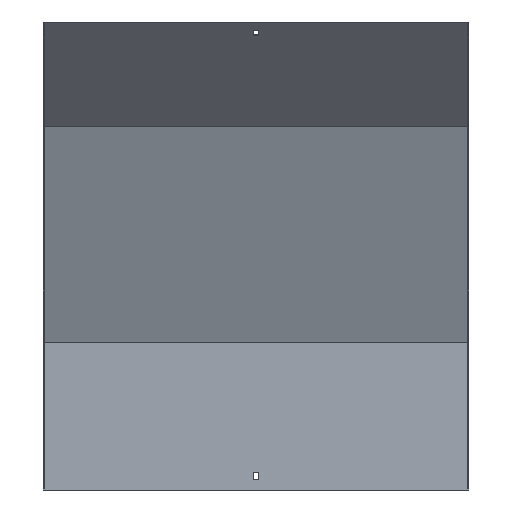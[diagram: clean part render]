
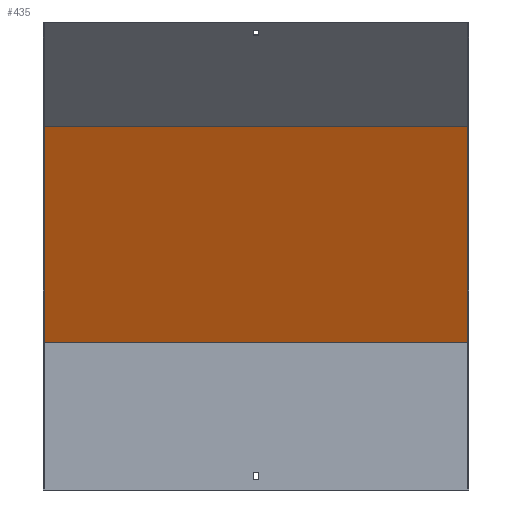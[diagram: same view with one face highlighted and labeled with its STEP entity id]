
A CAD part, front view. The second image highlights one B-rep face of the part: STEP entity #435.
In plain terms, the highlighted planar face has unit normal (0, -0.924, -0.383).
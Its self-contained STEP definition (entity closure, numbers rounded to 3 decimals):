
#47 = DIRECTION ( 'NONE',  ( 0., -0.924, -0.383 ) ) ;
#48 = DIRECTION ( 'NONE',  ( -1., 0., 0. ) ) ;
#49 = ORIENTED_EDGE ( 'NONE', *, *, #122, .F. ) ;
#55 = LINE ( 'NONE', #64, #191 ) ;
#64 = CARTESIAN_POINT ( 'NONE',  ( -250., 77.196, 31.976 ) ) ;
#111 = DIRECTION ( 'NONE',  ( 0., 0.383, -0.924 ) ) ;
#115 = LINE ( 'NONE', #627, #794 ) ;
#122 = EDGE_CURVE ( 'NONE', #571, #239, #115, .T. ) ;
#141 = DIRECTION ( 'NONE',  ( 0., -0.383, 0.924 ) ) ;
#191 = VECTOR ( 'NONE', #320, 1000. ) ;
#223 = FACE_OUTER_BOUND ( 'NONE', #442, .T. ) ;
#236 = VERTEX_POINT ( 'NONE', #455 ) ;
#237 = CARTESIAN_POINT ( 'NONE',  ( -250., -87.258, 429.003 ) ) ;
#239 = VERTEX_POINT ( 'NONE', #387 ) ;
#255 = LINE ( 'NONE', #712, #476 ) ;
#310 = AXIS2_PLACEMENT_3D ( 'NONE', #430, #47, #111 ) ;
#316 = EDGE_CURVE ( 'NONE', #571, #236, #742, .T. ) ;
#320 = DIRECTION ( 'NONE',  ( 0., -0.383, 0.924 ) ) ;
#359 = ORIENTED_EDGE ( 'NONE', *, *, #662, .F. ) ;
#387 = CARTESIAN_POINT ( 'NONE',  ( -250., 18.5, 173.68 ) ) ;
#430 = CARTESIAN_POINT ( 'NONE',  ( 251.5, 17.092, 177.08 ) ) ;
#435 = ADVANCED_FACE ( 'NONE', ( #223 ), #828, .T. ) ;
#442 = EDGE_LOOP ( 'NONE', ( #359, #49, #700, #705 ) ) ;
#455 = CARTESIAN_POINT ( 'NONE',  ( 250., -87.258, 429.003 ) ) ;
#476 = VECTOR ( 'NONE', #722, 1000. ) ;
#519 = VERTEX_POINT ( 'NONE', #237 ) ;
#571 = VERTEX_POINT ( 'NONE', #574 ) ;
#574 = CARTESIAN_POINT ( 'NONE',  ( 250., 18.5, 173.68 ) ) ;
#627 = CARTESIAN_POINT ( 'NONE',  ( 251.5, 18.5, 173.68 ) ) ;
#658 = EDGE_CURVE ( 'NONE', #236, #519, #255, .T. ) ;
#662 = EDGE_CURVE ( 'NONE', #239, #519, #55, .T. ) ;
#700 = ORIENTED_EDGE ( 'NONE', *, *, #316, .T. ) ;
#705 = ORIENTED_EDGE ( 'NONE', *, *, #658, .T. ) ;
#712 = CARTESIAN_POINT ( 'NONE',  ( 251.5, -87.258, 429.003 ) ) ;
#722 = DIRECTION ( 'NONE',  ( -1., 0., 0. ) ) ;
#742 = LINE ( 'NONE', #800, #831 ) ;
#794 = VECTOR ( 'NONE', #48, 1000. ) ;
#800 = CARTESIAN_POINT ( 'NONE',  ( 250., 77.196, 31.976 ) ) ;
#828 = PLANE ( 'NONE',  #310 ) ;
#831 = VECTOR ( 'NONE', #141, 1000. ) ;
